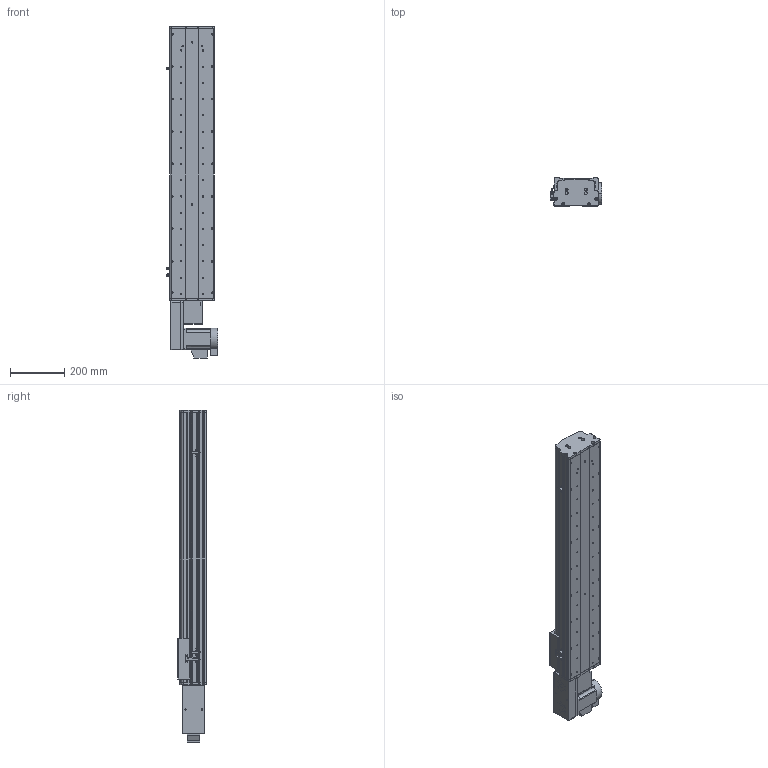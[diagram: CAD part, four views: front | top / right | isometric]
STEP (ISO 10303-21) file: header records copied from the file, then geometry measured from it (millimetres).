
FILE_DESCRIPTION (( 'STEP AP214' ), '1' );
FILE_NAME ('KSD165B-S750-MLB-CM.STEP', '2017-10-16T06:10:47', ( '微软用户' ), ( '微软中国' ), 'SwSTEP 2.0', 'SolidWorks 2014', '' );
FILE_SCHEMA (( 'AUTOMOTIVE_DESIGN' ));
Length unit declared in the file: millimetre
Products named in the file (17): KSD165模组-后端板1-同步带; KSD165模组-同步带滑动座-最新版; KSD165B-S750-MLB-CM; HTPA26S5M250-A-H8 750W萇儂蚚; HTPA26S5M250-A-H8 400W萇儂蚚 ; 130宽模组马达安装板连板左右折同步带; 130宽模组保护罩上下左右折-同步带; 165宽马达安装板同步带左-改; KSD165模组-同步带防尘盖1-750行程-最新版; KSD165模组同步带底板-750行程-最新; 拸秶雄ん750W侜督萇儂; U倰嫖萇假蚾璃; U倰嫖萇EEㄜSX672; 覜茼え68遵圉猾敕; KSD165模组-同步带-防撞垫2; KSD165模组同步带-防撞垫1; KSD165耀郪-ヶ傷啣1-肮祭湍
Assembly tree (20 placements, depth 2):
  KSD165B-S750-MLB-CM
    KSD165模组-同步带滑动座-最新版
    KSD165模组-后端板1-同步带
    KSD165耀郪-ヶ傷啣1-肮祭湍
    KSD165模组同步带-防撞垫1
    KSD165模组-同步带-防撞垫2
    覜茼え68遵圉猾敕
    U倰嫖萇EEㄜSX672  x3
    U倰嫖萇假蚾璃  x3
    拸秶雄ん750W侜督萇儂
    KSD165模组同步带底板-750行程-最新
    KSD165模组-同步带防尘盖1-750行程-最新版
    165宽马达安装板同步带左-改
    130宽模组保护罩上下左右折-同步带
    130宽模组马达安装板连板左右折同步带
    HTPA26S5M250-A-H8 400W萇儂蚚 
    HTPA26S5M250-A-H8 750W萇儂蚚
Bounding box: 191.2 x 104 x 1228 mm (x, y, z)
Volume: 6787233.1 mm3; surface area: 1576644.9 mm2
Topology: 21 solids, 22 shells, 1943 faces, 5478 edges, 3576 vertices
Faces by surface type: cylinder 1245, plane 586, cone 112
Entity records: 62864 total; most frequent: CARTESIAN_POINT 12882, DIRECTION 10350, ORIENTED_EDGE 9616, EDGE_CURVE 4808, AXIS2_PLACEMENT_3D 4058, VERTEX_POINT 3168, CIRCLE 2312, VECTOR 2234
